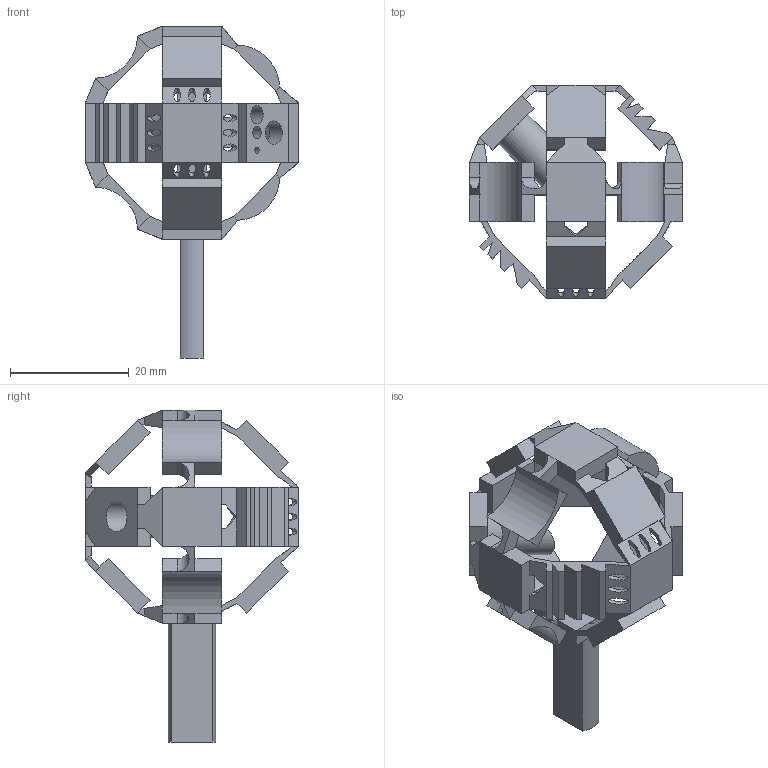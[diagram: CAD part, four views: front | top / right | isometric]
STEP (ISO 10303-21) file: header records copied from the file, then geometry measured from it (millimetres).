
FILE_DESCRIPTION(/* description */ ('CAx-IF Rec.Pracs.---Representation and Presentation of Product Manufacturing Information (PMI)---4.0---2014-10-13','CAx-IF Rec.Pracs.---3D Tessellated Geometry---0.4---2014-09-14','2;1'),/* implementation_level */ '2;1');
FILE_NAME(/* name */ 'DP000161_D_1-C3D_Test_MKIII_unbranded',/* time_stamp */ '2022-11-02T22:44:36+01:00',/* author */ (''),/* organization */ (''),/* preprocessor_version */ 'ST-DEVELOPER v16.7',/* originating_system */ $,/* authorisation */ $);
FILE_SCHEMA (('AP242_MANAGED_MODEL_BASED_3D_ENGINEERING_MIM_LF { 1 0 10303 442 20130219 1 4 }'));
Length unit declared in the file: millimetre
Products named in the file (1): DP000161_D_1-C3D_Test_MKIII_unbranded
Bounding box: 36 x 36 x 56 mm (x, y, z)
Volume: 5854.8 mm3; surface area: 7385.6 mm2
Topology: 1 solids, 1 shells, 296 faces, 855 edges, 525 vertices
Faces by surface type: plane 244, cylinder 36, bspline 12, sphere 4
Full cylindrical faces by diameter (mm): 1 x1, 2 x1, 3 x1, 4 x1, 5 x1, 7 x1
Entity records: 9913 total; most frequent: CARTESIAN_POINT 2218, ORIENTED_EDGE 1632, DIRECTION 1470, EDGE_CURVE 816, LINE 698, VECTOR 698, VERTEX_POINT 508, AXIS2_PLACEMENT_3D 395
